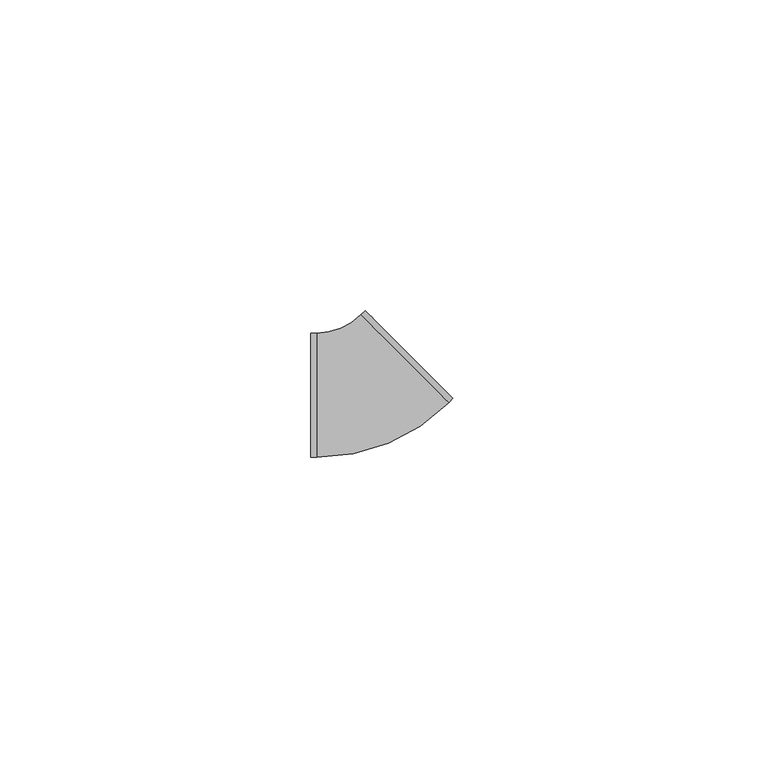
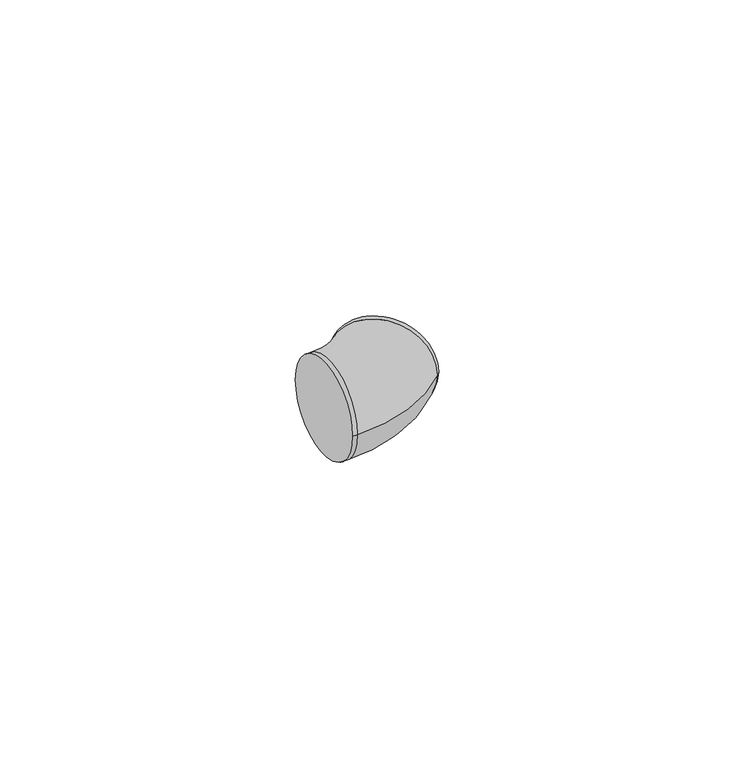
"""IFC4 building model written with IfcOpenShell, lengths in millimetres: cable carrier fitting geometry, ADSK_Поворот_Минимальный размер : Неспецифицируемый."""

from ifc_helpers import new_model, si_unit, point, frame, origin, place, context, project, spatial, circle_curve, ellipse_curve, trimmed, source, transform, mapped, element, save
from ifc_brep_helpers import plane_surface, cylinder_surface, revolved_surface, advanced_brep


def cable_carrier_fitting_de8e6b1f(model_context):
    return source(origin(), model_context, "Body", "AdvancedBrep", [
        advanced_brep(
        [(-9.2842572, -10.0, 0.0), (-9.2842572, 10.0, 0.0), (-8.2842572, -10.0, 0.0), (-8.2842572, 10.0, 0.0), (-1.2131979, 12.9289237, 0.0), (12.9289208, -1.2132289, 0.0), (13.6360284, -0.506123, 0.0), (-0.5060902, 13.6360296, 0.0)],
        [
            (0, 1, circle_curve(frame((-9.2842572, 0.0, 0.0), z_axis=(-1.0, -4.92260399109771e-12, 0.0), x_axis=(-4.92260399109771e-12, 1.0, 0.0)), 10.0)),
            (1, 0, circle_curve(frame((-9.2842572, 0.0, 0.0), z_axis=(-1.0, -4.92260399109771e-12, 0.0), x_axis=(-4.92260399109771e-12, 1.0, 0.0)), 10.0)),
            (0, 2),
            (2, 3, circle_curve(frame((-8.2842572, 0.0, 0.0), z_axis=(-1.0, -4.92260399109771e-12, 0.0), x_axis=(-4.92260399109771e-12, 1.0, 0.0)), 10.0)),
            (3, 1),
            (3, 2, circle_curve(frame((-8.2842572, 0.0, 0.0), z_axis=(-1.0, -4.92260399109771e-12, 0.0), x_axis=(-4.92260399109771e-12, 1.0, 0.0)), 10.0)),
            (4, 3, circle_curve(frame((-8.2842572, 20.0, 0.0), z_axis=(0.0, 0.0, -1.0), x_axis=(0.0, -1.0, 0.0)), 10.0)),
            (2, 5, circle_curve(frame((-8.2842572, 20.0, 0.0), z_axis=(0.0, 0.0, 1.0), x_axis=(0.0, -1.0, 0.0)), 30.0)),
            (5, 4, circle_curve(frame((5.8578615, 5.8578474, 0.0), z_axis=(-0.7071076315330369, -0.7071059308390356, 0.0), x_axis=(-0.7071059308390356, 0.7071076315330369, 0.0)), 10.0)),
            (4, 5, circle_curve(frame((5.8578615, 5.8578474, 0.0), z_axis=(-0.7071076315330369, -0.7071059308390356, 0.0), x_axis=(-0.7071059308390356, 0.7071076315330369, 0.0)), 10.0)),
            (6, 7, circle_curve(frame((6.5649691, 6.5649533, 0.0), z_axis=(0.7071076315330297, 0.7071059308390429, 0.0), x_axis=(-0.7071059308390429, 0.7071076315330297, 0.0)), 10.0)),
            (7, 6, circle_curve(frame((6.5649691, 6.5649533, 0.0), z_axis=(0.7071076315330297, 0.7071059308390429, 0.0), x_axis=(-0.7071059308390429, 0.7071076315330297, 0.0)), 10.0)),
            (5, 6),
            (7, 4),
        ],
        [
            plane_surface(frame((-9.2842572, 0.0, 0.0), z_axis=(-1.0, -4.92260399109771e-12, 0.0), x_axis=(0.0, 0.0, 1.0))),
            cylinder_surface(frame((-9.2842572, 0.0, 0.0), z_axis=(-1.0, -4.92260399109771e-12, 0.0), x_axis=(-4.92260399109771e-12, 1.0, 0.0)), 10.0),
            revolved_surface(trimmed(ellipse_curve(frame((-8.2842572, 0.0, 0.0), z_axis=(-1.0, 0.0, 0.0), x_axis=(0.0, 1.0, 0.0)), 10.0, 10.0), [point((-8.2842572, -10.0, 0.0))], [point((-8.2842572, 10.0, 0.0))], True, "CARTESIAN"), (-8.2842572, 20.0, 0.0), (0.0, 0.0, 1.0)),
            revolved_surface(trimmed(ellipse_curve(frame((-8.2842572, 0.0, 0.0), z_axis=(-1.0, 0.0, 0.0), x_axis=(0.0, 1.0, 0.0)), 10.0, 10.0), [point((-8.2842572, 10.0, 0.0))], [point((-8.2842572, -10.0, 0.0))], True, "CARTESIAN"), (-8.2842572, 20.0, 0.0), (0.0, 0.0, 1.0)),
            plane_surface(frame((6.5649691, 6.5649533, 0.0), z_axis=(0.7071076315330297, 0.7071059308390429, 0.0), x_axis=(0.0, 0.0, 1.0))),
            cylinder_surface(frame((5.8578615, 5.8578474, 0.0), z_axis=(-0.7071076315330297, -0.7071059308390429, 0.0), x_axis=(-0.7071059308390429, 0.7071076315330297, 0.0)), 10.0),
        ],
        [
            (0, [[1, 2]]),
            (1, [[-1, 3, 4, 5]]),
            (1, [[-2, -5, 6, -3]]),
            (2, [[7, -4, 8, 9]]),
            (3, [[-8, -6, -7, 10]]),
            (4, [[11, 12]]),
            (5, [[-9, 13, -12, 14]]),
            (5, [[-10, -14, -11, -13]]),
        ],
    ),
    ])


if __name__ == "__main__":
    model = new_model("IFC4")
    model_context = context("Model", 3, world=origin())
    ifc_project = project(units=[si_unit("LENGTHUNIT", "METRE", prefix="MILLI")], contexts=[model_context])
    site = spatial("IfcSite", under=ifc_project)
    building = spatial("IfcBuilding", under=site)
    placement = place(None, origin())
    cable_carrier_fitting_shape = cable_carrier_fitting_de8e6b1f(model_context)
    element("IfcCableCarrierFitting", 1, ObjectType="ADSK_Поворот_Минимальный размер : Неспецифицируемый", at=placement, inside=building, context=model_context, shape_type="MappedRepresentation", body=[
        mapped(cable_carrier_fitting_shape, transform((0.0, 0.0, 0.0), x_axis=(1.0, 0.0, 0.0), y_axis=(0.0, 1.0, 0.0), z_axis=(0.0, 0.0, 1.0))),
    ])
    save(model, "model.ifc")
